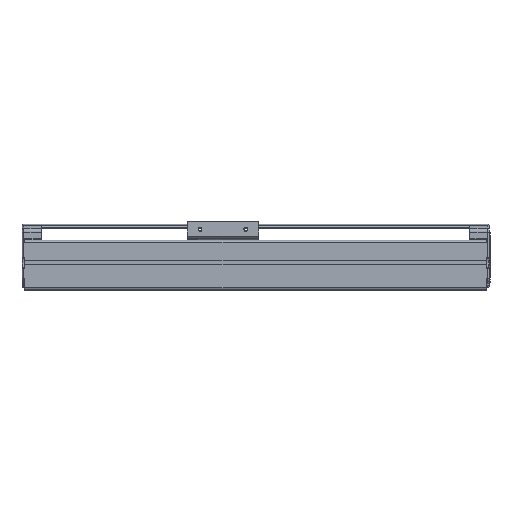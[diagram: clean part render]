
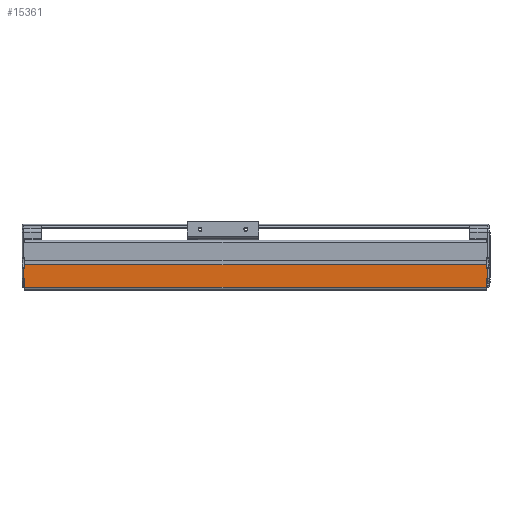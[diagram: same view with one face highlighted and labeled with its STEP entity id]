
A CAD part, top view. The second image highlights one B-rep face of the part: STEP entity #15361.
In plain terms, the highlighted planar face has unit normal (0, 0, 1).
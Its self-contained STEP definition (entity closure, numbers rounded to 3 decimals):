
#2221=DIRECTION('',(0.,1.,0.));
#2222=VECTOR('',#2221,11.);
#2223=CARTESIAN_POINT('',(504.,13.,39.));
#2224=LINE('',#2223,#2222);
#2240=DIRECTION('',(1.,0.,0.));
#2241=VECTOR('',#2240,1.);
#2242=CARTESIAN_POINT('',(503.,13.,39.));
#2243=LINE('',#2242,#2241);
#2248=DIRECTION('',(0.,-1.,0.));
#2249=VECTOR('',#2248,9.5);
#2250=CARTESIAN_POINT('',(0.,13.,39.));
#2251=LINE('',#2250,#2249);
#2252=DIRECTION('',(0.,-1.,0.));
#2253=VECTOR('',#2252,3.9);
#2254=CARTESIAN_POINT('',(0.,27.9,39.));
#2255=LINE('',#2254,#2253);
#2256=DIRECTION('',(0.,1.,0.));
#2257=VECTOR('',#2256,3.9);
#2258=CARTESIAN_POINT('',(503.,24.,39.));
#2259=LINE('',#2258,#2257);
#2260=DIRECTION('',(0.,1.,0.));
#2261=VECTOR('',#2260,9.5);
#2262=CARTESIAN_POINT('',(503.,3.5,39.));
#2263=LINE('',#2262,#2261);
#3776=DIRECTION('',(1.,0.,0.));
#3777=VECTOR('',#3776,503.);
#3778=CARTESIAN_POINT('',(0.,3.5,39.));
#3779=LINE('',#3778,#3777);
#6502=DIRECTION('',(-1.,0.,0.));
#6503=VECTOR('',#6502,1.);
#6504=CARTESIAN_POINT('',(0.,24.,39.));
#6505=LINE('',#6504,#6503);
#6525=DIRECTION('',(0.,-1.,0.));
#6526=VECTOR('',#6525,11.);
#6527=CARTESIAN_POINT('',(-1.,24.,39.));
#6528=LINE('',#6527,#6526);
#6547=DIRECTION('',(1.,0.,0.));
#6548=VECTOR('',#6547,1.);
#6549=CARTESIAN_POINT('',(-1.,13.,39.));
#6550=LINE('',#6549,#6548);
#8803=DIRECTION('',(-1.,0.,0.));
#8804=VECTOR('',#8803,503.);
#8805=CARTESIAN_POINT('',(503.,27.9,39.));
#8806=LINE('',#8805,#8804);
#9497=DIRECTION('',(-1.,0.,0.));
#9498=VECTOR('',#9497,1.);
#9499=CARTESIAN_POINT('',(504.,24.,39.));
#9500=LINE('',#9499,#9498);
#9718=CARTESIAN_POINT('',(0.,3.5,39.));
#9719=VERTEX_POINT('',#9718);
#9720=CARTESIAN_POINT('',(0.,27.9,39.));
#9722=VERTEX_POINT('',#9720);
#9979=CARTESIAN_POINT('',(503.,3.5,39.));
#9980=VERTEX_POINT('',#9979);
#10003=CARTESIAN_POINT('',(503.,27.9,39.));
#10004=VERTEX_POINT('',#10003);
#10351=CARTESIAN_POINT('',(504.,24.,39.));
#10352=VERTEX_POINT('',#10351);
#10355=CARTESIAN_POINT('',(504.,13.,39.));
#10356=VERTEX_POINT('',#10355);
#11451=CARTESIAN_POINT('',(-1.,24.,39.));
#11452=VERTEX_POINT('',#11451);
#11453=CARTESIAN_POINT('',(-1.,13.,39.));
#11454=VERTEX_POINT('',#11453);
#11673=CARTESIAN_POINT('',(503.,13.,39.));
#11675=VERTEX_POINT('',#11673);
#11707=CARTESIAN_POINT('',(503.,24.,39.));
#11709=VERTEX_POINT('',#11707);
#11881=CARTESIAN_POINT('',(0.,24.,39.));
#11882=VERTEX_POINT('',#11881);
#11883=CARTESIAN_POINT('',(0.,13.,39.));
#11885=VERTEX_POINT('',#11883);
#15334=CARTESIAN_POINT('',(251.5,15.7,39.));
#15335=DIRECTION('',(0.,0.,1.));
#15336=DIRECTION('',(0.,-1.,0.));
#15337=AXIS2_PLACEMENT_3D('',#15334,#15335,#15336);
#15338=PLANE('',#15337);
#15340=ORIENTED_EDGE('',*,*,#15339,.F.);
#15342=ORIENTED_EDGE('',*,*,#15341,.F.);
#15344=ORIENTED_EDGE('',*,*,#15343,.F.);
#15346=ORIENTED_EDGE('',*,*,#15345,.F.);
#15348=ORIENTED_EDGE('',*,*,#15347,.F.);
#15350=ORIENTED_EDGE('',*,*,#15349,.F.);
#15351=ORIENTED_EDGE('',*,*,#14993,.F.);
#15353=ORIENTED_EDGE('',*,*,#15352,.F.);
#15354=ORIENTED_EDGE('',*,*,#15289,.F.);
#15355=ORIENTED_EDGE('',*,*,#15326,.F.);
#15356=ORIENTED_EDGE('',*,*,#15111,.F.);
#15358=ORIENTED_EDGE('',*,*,#15357,.F.);
#15359=EDGE_LOOP('',(#15340,#15342,#15344,#15346,#15348,#15350,#15351,#15353,
#15354,#15355,#15356,#15358));
#15360=FACE_OUTER_BOUND('',#15359,.F.);
#15361=ADVANCED_FACE('',(#15360),#15338,.T.);
#14993=EDGE_CURVE('',#11709,#10004,#2259,.T.);
#15111=EDGE_CURVE('',#9980,#11675,#2263,.T.);
#15289=EDGE_CURVE('',#10356,#10352,#2224,.T.);
#15326=EDGE_CURVE('',#11675,#10356,#2243,.T.);
#15339=EDGE_CURVE('',#11885,#9719,#2251,.T.);
#15341=EDGE_CURVE('',#11454,#11885,#6550,.T.);
#15343=EDGE_CURVE('',#11452,#11454,#6528,.T.);
#15345=EDGE_CURVE('',#11882,#11452,#6505,.T.);
#15347=EDGE_CURVE('',#9722,#11882,#2255,.T.);
#15349=EDGE_CURVE('',#10004,#9722,#8806,.T.);
#15352=EDGE_CURVE('',#10352,#11709,#9500,.T.);
#15357=EDGE_CURVE('',#9719,#9980,#3779,.T.);
